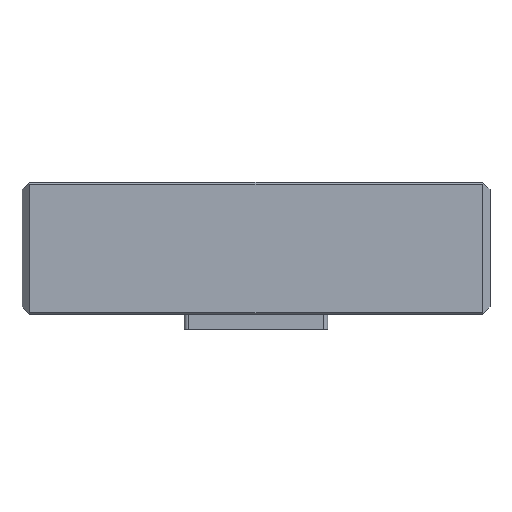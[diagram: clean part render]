
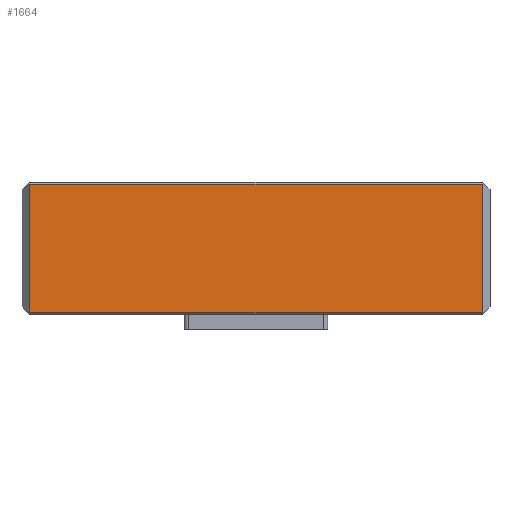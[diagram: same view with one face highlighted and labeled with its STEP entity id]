
A CAD part, top view. The second image highlights one B-rep face of the part: STEP entity #1664.
In plain terms, the highlighted planar face has unit normal (0, 0, 1).
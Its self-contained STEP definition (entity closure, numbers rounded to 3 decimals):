
#537=DIRECTION('',(-1.,0.,0.));
#538=VECTOR('',#537,120.);
#539=CARTESIAN_POINT('',(122.,0.5,0.));
#540=LINE('',#539,#538);
#541=DIRECTION('',(0.,1.,0.));
#542=VECTOR('',#541,34.);
#543=CARTESIAN_POINT('',(2.,0.5,0.));
#544=LINE('',#543,#542);
#553=DIRECTION('',(1.,0.,0.));
#554=VECTOR('',#553,120.);
#555=CARTESIAN_POINT('',(2.,34.5,0.));
#556=LINE('',#555,#554);
#573=DIRECTION('',(0.,-1.,0.));
#574=VECTOR('',#573,34.);
#575=CARTESIAN_POINT('',(122.,34.5,0.));
#576=LINE('',#575,#574);
#625=CARTESIAN_POINT('',(2.,0.5,0.));
#626=CARTESIAN_POINT('',(2.,34.5,0.));
#627=VERTEX_POINT('',#625);
#628=VERTEX_POINT('',#626);
#629=CARTESIAN_POINT('',(122.,34.5,0.));
#630=VERTEX_POINT('',#629);
#631=CARTESIAN_POINT('',(122.,0.5,0.));
#632=VERTEX_POINT('',#631);
#1653=CARTESIAN_POINT('',(62.,17.5,0.));
#1654=DIRECTION('',(0.,0.,-1.));
#1655=DIRECTION('',(1.,0.,0.));
#1656=AXIS2_PLACEMENT_3D('',#1653,#1654,#1655);
#1657=PLANE('',#1656);
#1658=ORIENTED_EDGE('',*,*,#1584,.T.);
#1659=ORIENTED_EDGE('',*,*,#1602,.T.);
#1660=ORIENTED_EDGE('',*,*,#1627,.T.);
#1661=ORIENTED_EDGE('',*,*,#1643,.T.);
#1662=EDGE_LOOP('',(#1658,#1659,#1660,#1661));
#1663=FACE_OUTER_BOUND('',#1662,.F.);
#1664=ADVANCED_FACE('',(#1663),#1657,.F.);
#1584=EDGE_CURVE('',#632,#627,#540,.T.);
#1602=EDGE_CURVE('',#627,#628,#544,.T.);
#1627=EDGE_CURVE('',#628,#630,#556,.T.);
#1643=EDGE_CURVE('',#630,#632,#576,.T.);
